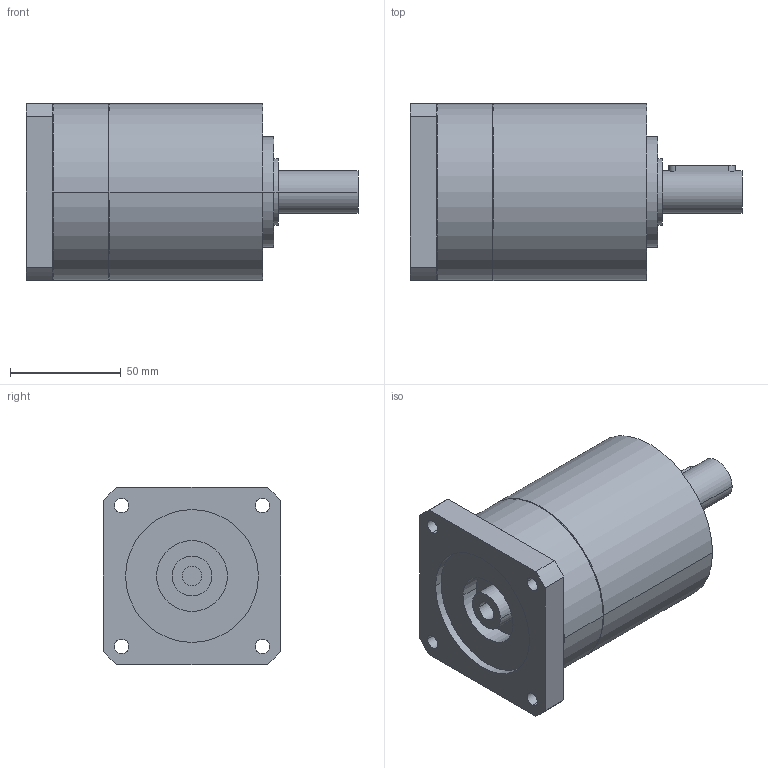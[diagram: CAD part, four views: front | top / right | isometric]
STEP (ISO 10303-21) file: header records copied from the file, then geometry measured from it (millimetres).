
FILE_DESCRIPTION(('CoCreate Modeling STEP Export'),'2;1');
FILE_NAME('GPR100_ig-3-4-5-6_19_B14_9_P19.stp','2014-08-26T10:53:13',(''),(''),'CoCreate Modeling STEP processor for AP214 (Solid Model)','CoCreate Modeling 16.00C 25-Feb-2009 (C) Parametric Technology GmbH','');
FILE_SCHEMA(('AUTOMOTIVE_DESIGN { 1 0 10303 214 1 1 1 1 }'));
Length unit declared in the file: millimetre
Products named in the file (2): GPR100_ig-3-4-5-6_19_B14_9_P19
Assembly tree (1 placements, depth 2):
  GPR100_ig-3-4-5-6_19_B14_9_P19
    GPR100_ig-3-4-5-6_19_B14_9_P19
Bounding box: 150 x 80 x 80 mm (x, y, z)
Volume: 554005.1 mm3; surface area: 49206.7 mm2
Topology: 1 solids, 1 shells, 82 faces, 221 edges, 157 vertices
Faces by surface type: cylinder 50, plane 26, cone 6
Entity records: 2244 total; most frequent: ORIENTED_EDGE 438, CARTESIAN_POINT 409, DIRECTION 302, EDGE_CURVE 219, VERTEX_POINT 157, AXIS2_PLACEMENT_3D 114, EDGE_LOOP 108, FACE_OUTER_BOUND 82
